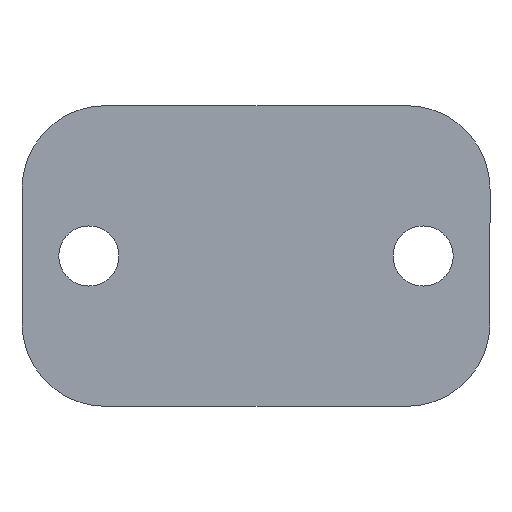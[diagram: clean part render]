
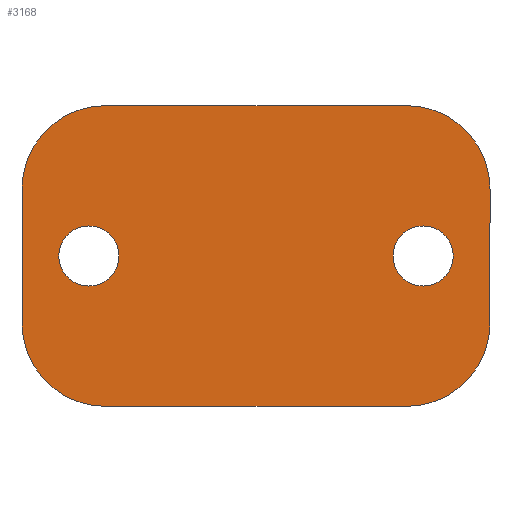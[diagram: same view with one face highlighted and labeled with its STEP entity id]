
A CAD part, front view. The second image highlights one B-rep face of the part: STEP entity #3168.
In plain terms, the highlighted planar face has unit normal (0, -1, 0).
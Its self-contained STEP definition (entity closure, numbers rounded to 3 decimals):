
#96 = CARTESIAN_POINT ( 'NONE',  ( 0., -20., 0. ) ) ;
#163 = ORIENTED_EDGE ( 'NONE', *, *, #2551, .T. ) ;
#218 = CIRCLE ( 'NONE', #5471, 25. ) ;
#239 = CARTESIAN_POINT ( 'NONE',  ( -45., -20., 45. ) ) ;
#263 = ORIENTED_EDGE ( 'NONE', *, *, #659, .F. ) ;
#274 = EDGE_CURVE ( 'NONE', #757, #1028, #5227, .T. ) ;
#314 = CARTESIAN_POINT ( 'NONE',  ( -70., -20., 20. ) ) ;
#376 = CARTESIAN_POINT ( 'NONE',  ( 50., -20., 0. ) ) ;
#395 = VECTOR ( 'NONE', #3555, 1000. ) ;
#605 = CARTESIAN_POINT ( 'NONE',  ( 50., -20., 0. ) ) ;
#659 = EDGE_CURVE ( 'NONE', #1607, #2816, #2009, .T. ) ;
#750 = DIRECTION ( 'NONE',  ( 1., 0., 0. ) ) ;
#757 = VERTEX_POINT ( 'NONE', #4401 ) ;
#791 = EDGE_LOOP ( 'NONE', ( #4192, #3796 ) ) ;
#812 = CARTESIAN_POINT ( 'NONE',  ( 45., -20., -20. ) ) ;
#815 = CARTESIAN_POINT ( 'NONE',  ( 70., -20., -20. ) ) ;
#839 = AXIS2_PLACEMENT_3D ( 'NONE', #376, #1666, #5485 ) ;
#925 = EDGE_CURVE ( 'NONE', #5182, #1638, #218, .T. ) ;
#991 = EDGE_CURVE ( 'NONE', #5079, #2059, #4556, .T. ) ;
#1025 = EDGE_LOOP ( 'NONE', ( #5205, #2066, #163, #3574, #4865, #2467, #3354, #2353 ) ) ;
#1028 = VERTEX_POINT ( 'NONE', #3980 ) ;
#1042 = FACE_BOUND ( 'NONE', #3975, .T. ) ;
#1092 = EDGE_CURVE ( 'NONE', #1638, #5409, #1766, .T. ) ;
#1099 = CARTESIAN_POINT ( 'NONE',  ( 70., -20., 20. ) ) ;
#1117 = VECTOR ( 'NONE', #4028, 1000. ) ;
#1168 = CARTESIAN_POINT ( 'NONE',  ( -50., -20., 0. ) ) ;
#1192 = EDGE_CURVE ( 'NONE', #2816, #1607, #4928, .T. ) ;
#1294 = VECTOR ( 'NONE', #3329, 1000. ) ;
#1607 = VERTEX_POINT ( 'NONE', #2056 ) ;
#1638 = VERTEX_POINT ( 'NONE', #314 ) ;
#1666 = DIRECTION ( 'NONE',  ( 0., -1., 0. ) ) ;
#1754 = VERTEX_POINT ( 'NONE', #815 ) ;
#1766 = LINE ( 'NONE', #2250, #395 ) ;
#1800 = LINE ( 'NONE', #4786, #5486 ) ;
#1838 = FACE_OUTER_BOUND ( 'NONE', #1025, .T. ) ;
#1941 = AXIS2_PLACEMENT_3D ( 'NONE', #1168, #3325, #5525 ) ;
#2009 = CIRCLE ( 'NONE', #839, 9. ) ;
#2056 = CARTESIAN_POINT ( 'NONE',  ( 41., -20., 0. ) ) ;
#2059 = VERTEX_POINT ( 'NONE', #3261 ) ;
#2066 = ORIENTED_EDGE ( 'NONE', *, *, #4143, .T. ) ;
#2096 = AXIS2_PLACEMENT_3D ( 'NONE', #3481, #5222, #3054 ) ;
#2142 = DIRECTION ( 'NONE',  ( 0., -1., 0. ) ) ;
#2250 = CARTESIAN_POINT ( 'NONE',  ( -70., -20., 20. ) ) ;
#2297 = CARTESIAN_POINT ( 'NONE',  ( -45., -20., -45. ) ) ;
#2300 = AXIS2_PLACEMENT_3D ( 'NONE', #4899, #5351, #5328 ) ;
#2353 = ORIENTED_EDGE ( 'NONE', *, *, #1092, .T. ) ;
#2415 = CARTESIAN_POINT ( 'NONE',  ( -45., -20., -20. ) ) ;
#2425 = CARTESIAN_POINT ( 'NONE',  ( -70., -20., -20. ) ) ;
#2467 = ORIENTED_EDGE ( 'NONE', *, *, #3649, .T. ) ;
#2551 = EDGE_CURVE ( 'NONE', #3398, #1754, #5381, .T. ) ;
#2561 = ORIENTED_EDGE ( 'NONE', *, *, #1192, .F. ) ;
#2762 = CIRCLE ( 'NONE', #4398, 25. ) ;
#2816 = VERTEX_POINT ( 'NONE', #5324 ) ;
#3054 = DIRECTION ( 'NONE',  ( 1., 0., 0. ) ) ;
#3168 = ADVANCED_FACE ( 'NONE', ( #5284, #1042, #1838 ), #5315, .T. ) ;
#3261 = CARTESIAN_POINT ( 'NONE',  ( 45., -20., 45. ) ) ;
#3276 = AXIS2_PLACEMENT_3D ( 'NONE', #812, #4330, #5189 ) ;
#3325 = DIRECTION ( 'NONE',  ( 0., -1., 0. ) ) ;
#3329 = DIRECTION ( 'NONE',  ( -1., 0., 0. ) ) ;
#3354 = ORIENTED_EDGE ( 'NONE', *, *, #925, .T. ) ;
#3398 = VERTEX_POINT ( 'NONE', #4332 ) ;
#3481 = CARTESIAN_POINT ( 'NONE',  ( 45., -20., 20. ) ) ;
#3555 = DIRECTION ( 'NONE',  ( 0., 0., -1. ) ) ;
#3574 = ORIENTED_EDGE ( 'NONE', *, *, #4784, .T. ) ;
#3649 = EDGE_CURVE ( 'NONE', #2059, #5182, #3677, .T. ) ;
#3677 = LINE ( 'NONE', #4097, #1294 ) ;
#3796 = ORIENTED_EDGE ( 'NONE', *, *, #3943, .F. ) ;
#3873 = DIRECTION ( 'NONE',  ( 1., 0., 0. ) ) ;
#3943 = EDGE_CURVE ( 'NONE', #1028, #757, #4020, .T. ) ;
#3975 = EDGE_LOOP ( 'NONE', ( #2561, #263 ) ) ;
#3980 = CARTESIAN_POINT ( 'NONE',  ( -59., -20., 0. ) ) ;
#4003 = DIRECTION ( 'NONE',  ( 1., 0., 0. ) ) ;
#4017 = AXIS2_PLACEMENT_3D ( 'NONE', #96, #4889, #4429 ) ;
#4020 = CIRCLE ( 'NONE', #2300, 9. ) ;
#4028 = DIRECTION ( 'NONE',  ( 1., 0., 0. ) ) ;
#4097 = CARTESIAN_POINT ( 'NONE',  ( -45., -20., 45. ) ) ;
#4143 = EDGE_CURVE ( 'NONE', #4972, #3398, #5288, .T. ) ;
#4192 = ORIENTED_EDGE ( 'NONE', *, *, #274, .F. ) ;
#4300 = CARTESIAN_POINT ( 'NONE',  ( -45., -20., 20. ) ) ;
#4330 = DIRECTION ( 'NONE',  ( 0., -1., 0. ) ) ;
#4332 = CARTESIAN_POINT ( 'NONE',  ( 45., -20., -45. ) ) ;
#4398 = AXIS2_PLACEMENT_3D ( 'NONE', #2415, #4668, #750 ) ;
#4401 = CARTESIAN_POINT ( 'NONE',  ( -41., -20., 0. ) ) ;
#4429 = DIRECTION ( 'NONE',  ( 1., 0., 0. ) ) ;
#4556 = CIRCLE ( 'NONE', #2096, 25. ) ;
#4643 = EDGE_CURVE ( 'NONE', #5409, #4972, #2762, .T. ) ;
#4668 = DIRECTION ( 'NONE',  ( 0., -1., 0. ) ) ;
#4784 = EDGE_CURVE ( 'NONE', #1754, #5079, #1800, .T. ) ;
#4786 = CARTESIAN_POINT ( 'NONE',  ( 70., -20., 20. ) ) ;
#4833 = CARTESIAN_POINT ( 'NONE',  ( -45., -20., -45. ) ) ;
#4865 = ORIENTED_EDGE ( 'NONE', *, *, #991, .T. ) ;
#4889 = DIRECTION ( 'NONE',  ( 0., -1., 0. ) ) ;
#4896 = DIRECTION ( 'NONE',  ( 0., -1., 0. ) ) ;
#4899 = CARTESIAN_POINT ( 'NONE',  ( -50., -20., 0. ) ) ;
#4928 = CIRCLE ( 'NONE', #5100, 9. ) ;
#4972 = VERTEX_POINT ( 'NONE', #4833 ) ;
#5079 = VERTEX_POINT ( 'NONE', #1099 ) ;
#5100 = AXIS2_PLACEMENT_3D ( 'NONE', #605, #4896, #4003 ) ;
#5121 = DIRECTION ( 'NONE',  ( 0., 0., 1. ) ) ;
#5182 = VERTEX_POINT ( 'NONE', #239 ) ;
#5189 = DIRECTION ( 'NONE',  ( 1., 0., 0. ) ) ;
#5205 = ORIENTED_EDGE ( 'NONE', *, *, #4643, .T. ) ;
#5222 = DIRECTION ( 'NONE',  ( 0., -1., 0. ) ) ;
#5227 = CIRCLE ( 'NONE', #1941, 9. ) ;
#5284 = FACE_BOUND ( 'NONE', #791, .T. ) ;
#5288 = LINE ( 'NONE', #2297, #1117 ) ;
#5315 = PLANE ( 'NONE',  #4017 ) ;
#5324 = CARTESIAN_POINT ( 'NONE',  ( 59., -20., 0. ) ) ;
#5328 = DIRECTION ( 'NONE',  ( 1., 0., 0. ) ) ;
#5351 = DIRECTION ( 'NONE',  ( 0., -1., 0. ) ) ;
#5381 = CIRCLE ( 'NONE', #3276, 25. ) ;
#5409 = VERTEX_POINT ( 'NONE', #2425 ) ;
#5471 = AXIS2_PLACEMENT_3D ( 'NONE', #4300, #2142, #3873 ) ;
#5485 = DIRECTION ( 'NONE',  ( 1., 0., 0. ) ) ;
#5486 = VECTOR ( 'NONE', #5121, 1000. ) ;
#5525 = DIRECTION ( 'NONE',  ( 1., 0., 0. ) ) ;
